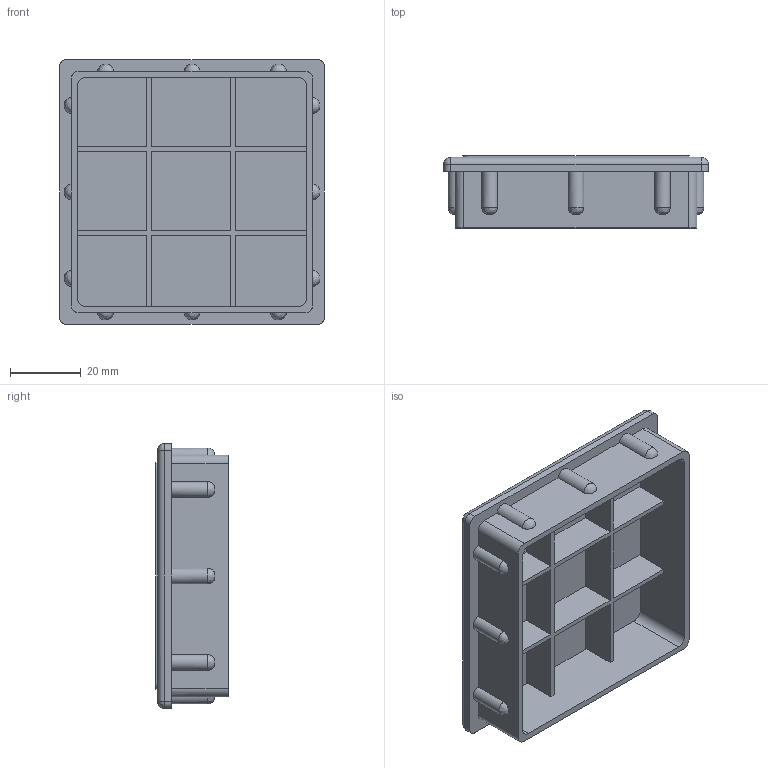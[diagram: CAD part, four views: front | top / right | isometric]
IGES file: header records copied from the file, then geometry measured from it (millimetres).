
Global section: file name: DR_PR4-7575; native system: Autodesk Inventor 2015; preprocessor: unknown; author: 한민아,,11,0; date: 20190530.110031; units: millimetre
Bounding box: 75 x 20.5 x 75 mm (x, y, z)
Volume: 20442.1 mm3; surface area: 29138.2 mm2
Topology: 1 solids, 1 shells, 108 faces, 360 edges, 244 vertices
Faces by surface type: bspline 108
